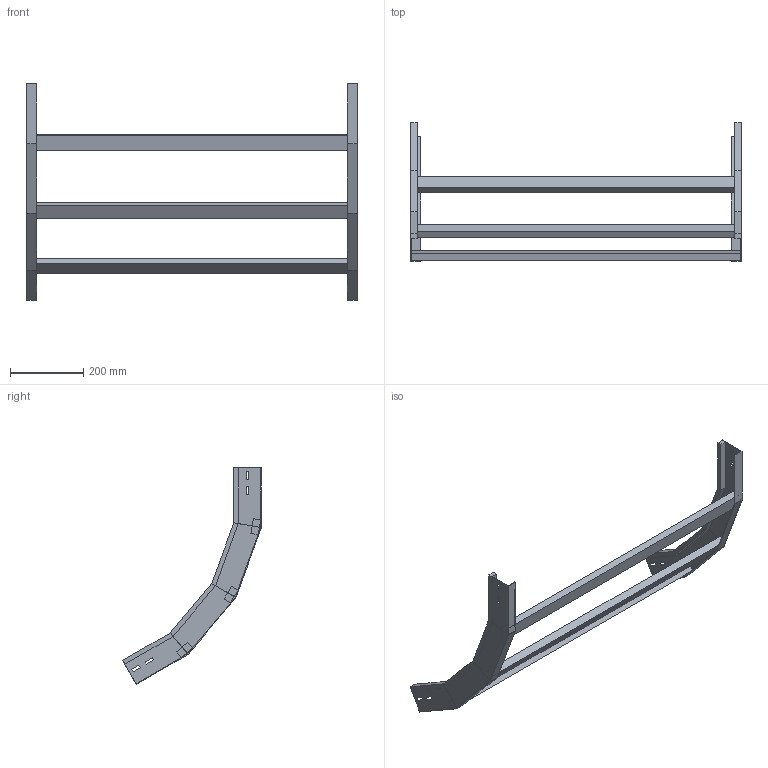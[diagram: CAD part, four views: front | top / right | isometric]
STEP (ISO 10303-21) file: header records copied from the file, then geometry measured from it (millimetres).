
FILE_DESCRIPTION (( 'STEP AP214' ), '1' );
FILE_NAME ('B2X40B5C900XX.step', '2025-03-20T10:18:47', ( '' ), ( '' ), 'SwSTEP 2.0', 'SolidWorks 2023', '' );
FILE_SCHEMA (( 'AUTOMOTIVE_DESIGN' ));
Length unit declared in the file: millimetre
Products named in the file (3): B2X40B5C900XX; LONGH.SALITA_60°_H75_R500; TRAVERSINO_900
Assembly tree (5 placements, depth 2):
  B2X40B5C900XX
    LONGH.SALITA_60°_H75_R500  x2
    TRAVERSINO_900  x3
Bounding box: 900 x 377.79 x 589.4 mm (x, y, z)
Volume: 2707410 mm3; surface area: 657891.6 mm2
Topology: 5 solids, 5 shells, 118 faces, 276 edges, 168 vertices
Faces by surface type: plane 118
Entity records: 1672 total; most frequent: CARTESIAN_POINT 276, ORIENTED_EDGE 264, DIRECTION 260, LINE 132, VECTOR 132, EDGE_CURVE 132, VERTEX_POINT 80, EDGE_LOOP 64
